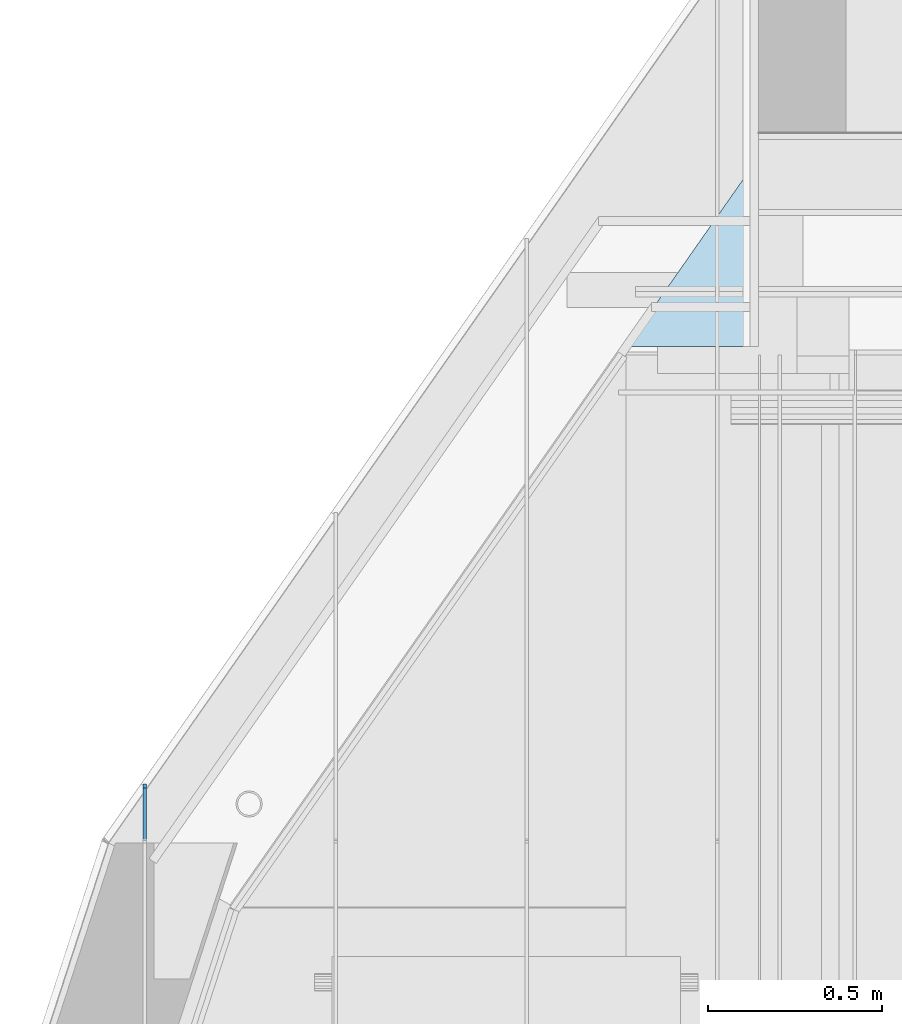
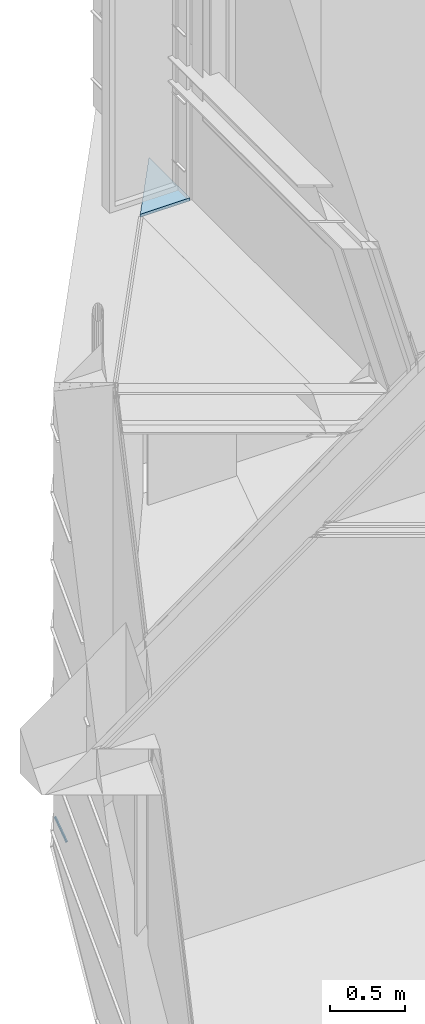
# One storey, part 307 of 583: 2 slabs.
"""IFC2X3 building model written with IfcOpenShell, lengths in metres."""

from ifc_helpers import new_model, entity, si_unit, converted_unit, derived_unit, money_unit, direction, frame, origin_with_axes, place, context, subcontext, project, spatial, faceted_brep, material, type_object, element, save


model = new_model("IFC2X3")

# Units and contexts
model_context = context("Model", 3, precision=1e-05, world=origin_with_axes(), true_north=direction((0.0, 1.0)))
body_context = subcontext(model_context, "Body", "Model", "MODEL_VIEW", scale=1.0)
ifc_project = project(units=[si_unit("LENGTHUNIT", "METRE"), si_unit("AREAUNIT", "SQUARE_METRE"), si_unit("VOLUMEUNIT", "CUBIC_METRE"), si_unit("ABSORBEDDOSEUNIT", "GRAY"), si_unit("AMOUNTOFSUBSTANCEUNIT", "MOLE"), si_unit("DOSEEQUIVALENTUNIT", "SIEVERT"), si_unit("ELECTRICCAPACITANCEUNIT", "FARAD"), si_unit("ELECTRICCHARGEUNIT", "COULOMB"), si_unit("ELECTRICCONDUCTANCEUNIT", "SIEMENS"), si_unit("ELECTRICCURRENTUNIT", "AMPERE"), si_unit("ELECTRICRESISTANCEUNIT", "OHM"), si_unit("ELECTRICVOLTAGEUNIT", "VOLT"), si_unit("ENERGYUNIT", "JOULE"), si_unit("FORCEUNIT", "NEWTON"), si_unit("FREQUENCYUNIT", "HERTZ"), si_unit("ILLUMINANCEUNIT", "LUX"), si_unit("INDUCTANCEUNIT", "HENRY"), si_unit("LUMINOUSFLUXUNIT", "LUMEN"), si_unit("LUMINOUSINTENSITYUNIT", "CANDELA"), si_unit("MAGNETICFLUXDENSITYUNIT", "TESLA"), si_unit("MAGNETICFLUXUNIT", "WEBER"), si_unit("MASSUNIT", "GRAM"), converted_unit("PLANEANGLEUNIT", "degree", entity("IfcReal", 0.0174532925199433), si_unit("PLANEANGLEUNIT", "RADIAN"), dimensions=[0, 0, 0, 0, 0, 0, 0]), si_unit("POWERUNIT", "WATT"), si_unit("PRESSUREUNIT", "PASCAL"), si_unit("RADIOACTIVITYUNIT", "BECQUEREL"), si_unit("SOLIDANGLEUNIT", "STERADIAN"), si_unit("THERMODYNAMICTEMPERATUREUNIT", "KELVIN"), si_unit("TIMEUNIT", "SECOND"), derived_unit("ACCELERATIONUNIT", [(si_unit("LENGTHUNIT", "METRE"), 1), (si_unit("TIMEUNIT", "SECOND"), -2)]), derived_unit("ANGULARVELOCITYUNIT", [(converted_unit("PLANEANGLEUNIT", "degree", entity("IfcReal", 0.0174532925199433), si_unit("PLANEANGLEUNIT", "RADIAN"), dimensions=[0, 0, 0, 0, 0, 0, 0]), 1), (si_unit("TIMEUNIT", "SECOND"), -1)]), derived_unit("CURVATUREUNIT", [(converted_unit("PLANEANGLEUNIT", "degree", entity("IfcReal", 0.0174532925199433), si_unit("PLANEANGLEUNIT", "RADIAN"), dimensions=[0, 0, 0, 0, 0, 0, 0]), 1), (si_unit("LENGTHUNIT", "METRE"), -1)]), derived_unit("DYNAMICVISCOSITYUNIT", [(si_unit("PRESSUREUNIT", "PASCAL"), 1), (si_unit("TIMEUNIT", "SECOND"), 1)]), derived_unit("HEATFLUXDENSITYUNIT", [(si_unit("POWERUNIT", "WATT"), 1), (si_unit("LENGTHUNIT", "METRE"), -2)]), derived_unit("HEATINGVALUEUNIT", [(si_unit("ENERGYUNIT", "JOULE"), 1), (si_unit("MASSUNIT", "GRAM"), -1)]), derived_unit("INTEGERCOUNTRATEUNIT", [(si_unit("TIMEUNIT", "SECOND"), -1)]), derived_unit("IONCONCENTRATIONUNIT", [(si_unit("MASSUNIT", "GRAM"), 1), (si_unit("VOLUMEUNIT", "CUBIC_METRE"), -1)]), derived_unit("ISOTHERMALMOISTURECAPACITYUNIT", [(si_unit("VOLUMEUNIT", "CUBIC_METRE"), 1), (si_unit("MASSUNIT", "GRAM"), -1)]), derived_unit("KINEMATICVISCOSITYUNIT", [(si_unit("AREAUNIT", "SQUARE_METRE"), 1), (si_unit("TIMEUNIT", "SECOND"), -1)]), derived_unit("LINEARFORCEUNIT", [(si_unit("FORCEUNIT", "NEWTON"), 1), (si_unit("LENGTHUNIT", "METRE"), -1)]), derived_unit("LINEARMOMENTUNIT", [(si_unit("FORCEUNIT", "NEWTON"), 1), (si_unit("LENGTHUNIT", "METRE"), -1)]), derived_unit("LINEARSTIFFNESSUNIT", [(si_unit("FORCEUNIT", "NEWTON"), 1), (si_unit("LENGTHUNIT", "METRE"), -1)]), derived_unit("LINEARVELOCITYUNIT", [(si_unit("LENGTHUNIT", "METRE"), 1), (si_unit("TIMEUNIT", "SECOND"), -1)]), derived_unit("LUMINOUSINTENSITYDISTRIBUTIONUNIT", [(si_unit("LUMINOUSINTENSITYUNIT", "CANDELA"), 1), (si_unit("LUMINOUSFLUXUNIT", "LUMEN"), -1)]), derived_unit("MASSDENSITYUNIT", [(si_unit("MASSUNIT", "GRAM"), 1), (si_unit("VOLUMEUNIT", "CUBIC_METRE"), -1)]), derived_unit("MASSFLOWRATEUNIT", [(si_unit("MASSUNIT", "GRAM"), 1), (si_unit("TIMEUNIT", "SECOND"), -1)]), derived_unit("MASSPERLENGTHUNIT", [(si_unit("MASSUNIT", "GRAM"), 1), (si_unit("LENGTHUNIT", "METRE"), -1)]), derived_unit("MODULUSOFELASTICITYUNIT", [(si_unit("FORCEUNIT", "NEWTON"), 1), (si_unit("AREAUNIT", "SQUARE_METRE"), -1)]), derived_unit("MODULUSOFLINEARSUBGRADEREACTIONUNIT", [(si_unit("FORCEUNIT", "NEWTON"), 1), (si_unit("LENGTHUNIT", "METRE"), -2)]), derived_unit("MODULUSOFROTATIONALSUBGRADEREACTIONUNIT", [(si_unit("FORCEUNIT", "NEWTON"), 1), (si_unit("LENGTHUNIT", "METRE"), 1)]), derived_unit("MODULUSOFSUBGRADEREACTIONUNIT", [(si_unit("FORCEUNIT", "NEWTON"), 1), (si_unit("VOLUMEUNIT", "CUBIC_METRE"), -1)]), derived_unit("MOISTUREDIFFUSIVITYUNIT", [(si_unit("VOLUMEUNIT", "CUBIC_METRE"), 1), (si_unit("TIMEUNIT", "SECOND"), -1)]), derived_unit("MOLECULARWEIGHTUNIT", [(si_unit("MASSUNIT", "GRAM"), 1), (si_unit("AMOUNTOFSUBSTANCEUNIT", "MOLE"), -1)]), derived_unit("PLANARFORCEUNIT", [(si_unit("FORCEUNIT", "NEWTON"), 1), (si_unit("LENGTHUNIT", "METRE"), -2)]), derived_unit("ROTATIONALFREQUENCYUNIT", [(si_unit("TIMEUNIT", "SECOND"), -1)]), derived_unit("ROTATIONALMASSUNIT", [(si_unit("MASSUNIT", "GRAM"), 1), (si_unit("LENGTHUNIT", "METRE"), 2)]), derived_unit("ROTATIONALSTIFFNESSUNIT", [(si_unit("FORCEUNIT", "NEWTON"), 1), (si_unit("LENGTHUNIT", "METRE"), 1), (converted_unit("PLANEANGLEUNIT", "degree", entity("IfcReal", 0.0174532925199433), si_unit("PLANEANGLEUNIT", "RADIAN"), dimensions=[0, 0, 0, 0, 0, 0, 0]), -1)]), derived_unit("SECTIONAREAINTEGRALUNIT", [(si_unit("LENGTHUNIT", "METRE"), 5)]), derived_unit("SECTIONMODULUSUNIT", [(si_unit("LENGTHUNIT", "METRE"), 3)]), derived_unit("SHEARMODULUSUNIT", [(si_unit("FORCEUNIT", "NEWTON"), 1), (si_unit("AREAUNIT", "SQUARE_METRE"), -1)]), derived_unit("SOUNDPOWERUNIT", [(si_unit("ENERGYUNIT", "JOULE"), 1), (si_unit("TIMEUNIT", "SECOND"), -1)]), derived_unit("SPECIFICHEATCAPACITYUNIT", [(si_unit("FORCEUNIT", "NEWTON"), 1), (si_unit("MASSUNIT", "GRAM"), -1), (si_unit("THERMODYNAMICTEMPERATUREUNIT", "KELVIN"), -1)]), derived_unit("TEMPERATUREGRADIENTUNIT", [(si_unit("THERMODYNAMICTEMPERATUREUNIT", "KELVIN"), 1), (si_unit("LENGTHUNIT", "METRE"), -1)]), derived_unit("THERMALADMITTANCEUNIT", [(si_unit("POWERUNIT", "WATT"), 1), (si_unit("AREAUNIT", "SQUARE_METRE"), -1), (si_unit("THERMODYNAMICTEMPERATUREUNIT", "KELVIN"), -1)]), derived_unit("THERMALCONDUCTANCEUNIT", [(si_unit("POWERUNIT", "WATT"), 1), (si_unit("LENGTHUNIT", "METRE"), -1), (si_unit("THERMODYNAMICTEMPERATUREUNIT", "KELVIN"), -1)]), derived_unit("THERMALEXPANSIONCOEFFICIENTUNIT", [(si_unit("THERMODYNAMICTEMPERATUREUNIT", "KELVIN"), -1)]), derived_unit("THERMALRESISTANCEUNIT", [(si_unit("AREAUNIT", "SQUARE_METRE"), 1), (si_unit("POWERUNIT", "WATT"), -1)]), derived_unit("THERMALTRANSMITTANCEUNIT", [(si_unit("POWERUNIT", "WATT"), 1), (si_unit("AREAUNIT", "SQUARE_METRE"), -1), (si_unit("THERMODYNAMICTEMPERATUREUNIT", "KELVIN"), -1)]), derived_unit("TORQUEUNIT", [(si_unit("FORCEUNIT", "NEWTON"), 1), (si_unit("LENGTHUNIT", "METRE"), 1)]), derived_unit("VAPORPERMEABILITYUNIT", [(si_unit("MASSUNIT", "GRAM"), 1), (si_unit("TIMEUNIT", "SECOND"), -1)]), derived_unit("VOLUMETRICFLOWRATEUNIT", [(si_unit("VOLUMEUNIT", "CUBIC_METRE"), 1), (si_unit("TIMEUNIT", "SECOND"), -1)]), derived_unit("WARPINGCONSTANTUNIT", [(si_unit("LENGTHUNIT", "METRE"), 6)]), derived_unit("WARPINGMOMENTUNIT", [(si_unit("FORCEUNIT", "NEWTON"), 1), (si_unit("LENGTHUNIT", "METRE"), 2)]), money_unit("GBP")], contexts=[model_context])

# Site, building, storey
site_placement = place(None, origin_with_axes())
site = spatial("IfcSite", under=ifc_project, at=site_placement, Name="Site", CompositionType="ELEMENT")
building_placement = place(site_placement, origin_with_axes())
building = spatial("IfcBuilding", under=site, at=building_placement, Name="Building01", CompositionType="ELEMENT")
storey_placement = place(building_placement, frame((0.0, 0.0, 20.78), z_axis=(0.0, 0.0, 1.0), x_axis=(1.0, 0.0, 0.0)))
storey = spatial("IfcBuildingStorey", under=building, at=storey_placement, Name="RL", CompositionType="ELEMENT", Elevation=20.78)

# Slabs
ifc_material = material(Name="A_BSUK_Roofs")
slab_type = type_object("IfcSlabType", Name="A-FloorsSlabs A_BSUK_Slabs", PredefinedType="FLOOR")
slab_1_placement = place(storey_placement, frame((1.443975, 18.780461, -19.44574), z_axis=(0.0, 1.0, 0.0), x_axis=(-1.0, 0.0, 0.0)))
element("IfcSlab", 1, at=slab_1_placement, inside=storey, type_object=slab_type, material=ifc_material, Name="A-FloorsSlabs A_BSUK_Slabs", ObjectType="A-FloorsSlabs A_BSUK_Slabs", context=body_context, shape_type="Brep", body=[
    faceted_brep([(0.0, 0.0, 0.0), (0.0, -0.016383, 0.011472), (0.0, 0.093332, 0.168161), (0.0, 0.109715, 0.15669), (0.01, 0.0, 0.0), (0.01, -0.016383, 0.011472), (0.01, 0.109715, 0.15669), (0.01, 0.093332, 0.168161)], [[[0, 1, 2, 3]], [[4, 5, 1, 0]], [[6, 7, 5, 4]], [[3, 2, 7, 6]], [[1, 5, 7, 2]], [[3, 6, 4, 0]]]),
])
slab_2_placement = place(storey_placement, frame((0.0, 0.0, -20.78), z_axis=(0.0, 0.0, 1.0), x_axis=(1.0, 0.0, 0.0)))
element("IfcSlab", 2, at=slab_2_placement, inside=storey, type_object=slab_type, material=ifc_material, Name="A-FloorsSlabs A_BSUK_Slabs", ObjectType="CompoundSlabLeaf", context=body_context, shape_type="Brep", body=[
    faceted_brep([(3.199939, 20.205, 5.035024), (3.199939, 20.205, 5.060024), (2.820042, 20.205, 5.060024), (2.820042, 20.205, 5.035024), (3.2, 20.747636, 5.035024), (3.2, 20.747636, 5.060024)], [[[0, 1, 2, 3]], [[4, 5, 1, 0]], [[3, 2, 5, 4]], [[1, 5, 2]], [[3, 4, 0]]]),
])

save(model, "model.ifc")
